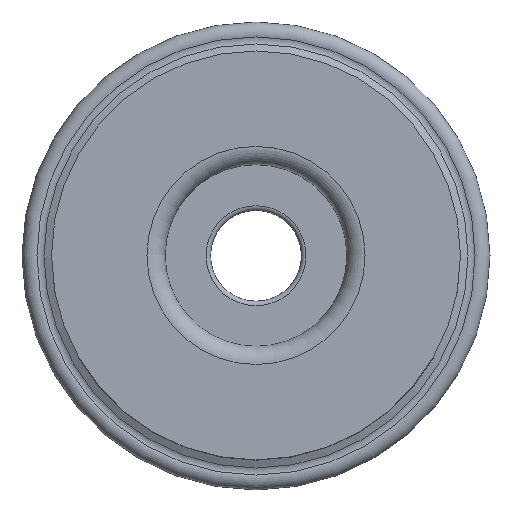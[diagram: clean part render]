
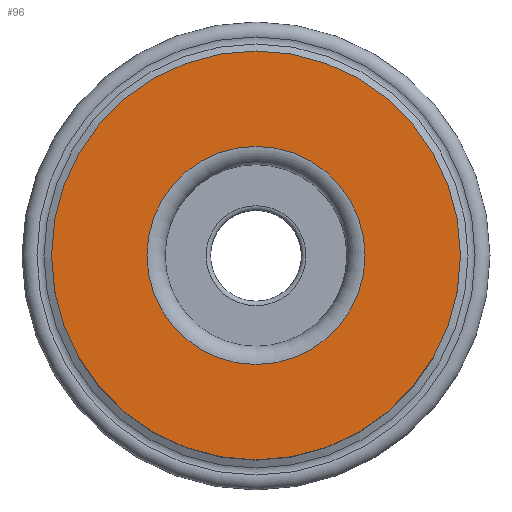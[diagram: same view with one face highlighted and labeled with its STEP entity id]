
A CAD part, top view. The second image highlights one B-rep face of the part: STEP entity #96.
In plain terms, the highlighted planar face has unit normal (0, 0, 1).
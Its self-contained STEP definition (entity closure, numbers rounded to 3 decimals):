
#96=ADVANCED_FACE('',(#189,#190),#191,.T.);
#189=FACE_BOUND('',#316,.T.);
#190=FACE_OUTER_BOUND('',#317,.T.);
#191=PLANE('',#318);
#316=EDGE_LOOP('',(#556));
#317=EDGE_LOOP('',(#557));
#318=AXIS2_PLACEMENT_3D('',#558,#559,#560);
#556=ORIENTED_EDGE('',*,*,#815,.T.);
#557=ORIENTED_EDGE('',*,*,#853,.T.);
#558=CARTESIAN_POINT('',(2.0,0.,7.5));
#559=DIRECTION('',(0.0,0.,1.0));
#560=DIRECTION('',(0.0,-1.0,0.));
#815=EDGE_CURVE('',#969,#969,#970,.F.);
#853=EDGE_CURVE('',#1037,#1037,#1038,.T.);
#969=VERTEX_POINT('',#1190);
#970=CIRCLE('',#1191,2.4);
#1037=VERTEX_POINT('',#1273);
#1038=CIRCLE('',#1274,4.5);
#1190=CARTESIAN_POINT('',(0.0,-2.4,7.5));
#1191=AXIS2_PLACEMENT_3D('',#1435,#1436,#1437);
#1273=CARTESIAN_POINT('',(0.0,-4.5,7.5));
#1274=AXIS2_PLACEMENT_3D('',#1519,#1520,#1521);
#1435=CARTESIAN_POINT('',(0.0,0.,7.5));
#1436=DIRECTION('',(0.0,0.,1.0));
#1437=DIRECTION('',(0.0,-1.0,0.));
#1519=CARTESIAN_POINT('',(0.0,0.,7.5));
#1520=DIRECTION('',(0.0,0.,1.0));
#1521=DIRECTION('',(0.0,-1.0,0.));
